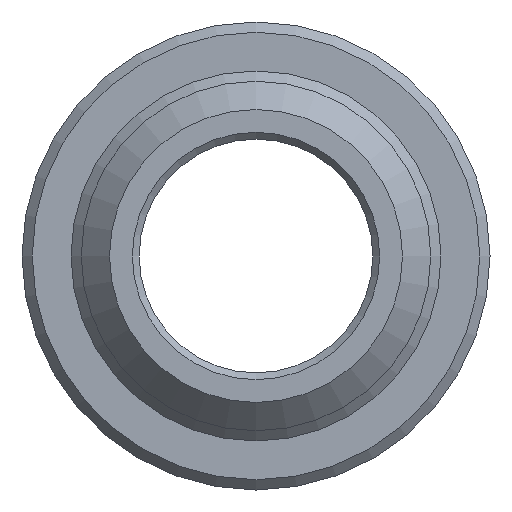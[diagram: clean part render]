
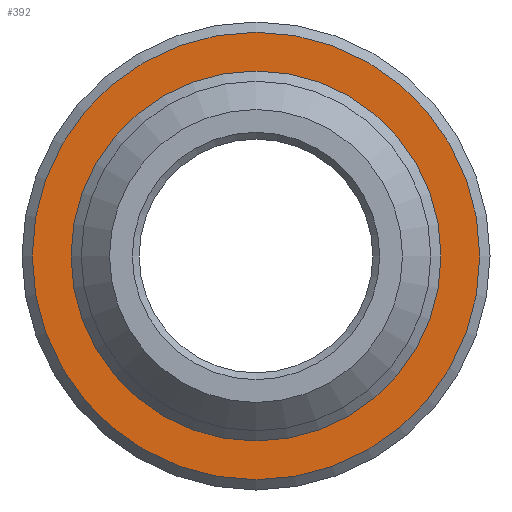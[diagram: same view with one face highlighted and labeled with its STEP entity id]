
A CAD part, front view. The second image highlights one B-rep face of the part: STEP entity #392.
In plain terms, the highlighted planar face has unit normal (0, -1, 0).
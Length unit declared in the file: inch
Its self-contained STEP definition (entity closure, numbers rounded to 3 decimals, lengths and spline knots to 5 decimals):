
#33=FACE_BOUND('',#86,.T.);
#44=PLANE('',#443);
#60=FACE_OUTER_BOUND('',#85,.T.);
#85=EDGE_LOOP('',(#316));
#86=EDGE_LOOP('',(#317));
#158=CIRCLE('',#442,0.27154);
#159=CIRCLE('',#444,0.3285);
#195=VERTEX_POINT('',#678);
#196=VERTEX_POINT('',#682);
#243=EDGE_CURVE('',#195,#195,#158,.T.);
#244=EDGE_CURVE('',#196,#196,#159,.T.);
#316=ORIENTED_EDGE('',*,*,#244,.F.);
#317=ORIENTED_EDGE('',*,*,#243,.F.);
#392=ADVANCED_FACE('',(#60,#33),#44,.T.);
#442=AXIS2_PLACEMENT_3D('',#680,#536,#537);
#443=AXIS2_PLACEMENT_3D('',#681,#538,#539);
#444=AXIS2_PLACEMENT_3D('',#683,#540,#541);
#536=DIRECTION('center_axis',(0.,-1.,0.));
#537=DIRECTION('ref_axis',(0.,0.,-1.));
#538=DIRECTION('center_axis',(0.,-1.,0.));
#539=DIRECTION('ref_axis',(0.,0.,-1.));
#540=DIRECTION('center_axis',(0.,1.,0.));
#541=DIRECTION('ref_axis',(0.,0.,1.));
#678=CARTESIAN_POINT('',(0.,7.5,0.27154));
#680=CARTESIAN_POINT('Origin',(0.,7.5,0.));
#681=CARTESIAN_POINT('Origin',(0.,7.5,-0.27));
#682=CARTESIAN_POINT('',(0.,7.5,-0.3285));
#683=CARTESIAN_POINT('Origin',(0.,7.5,0.));
